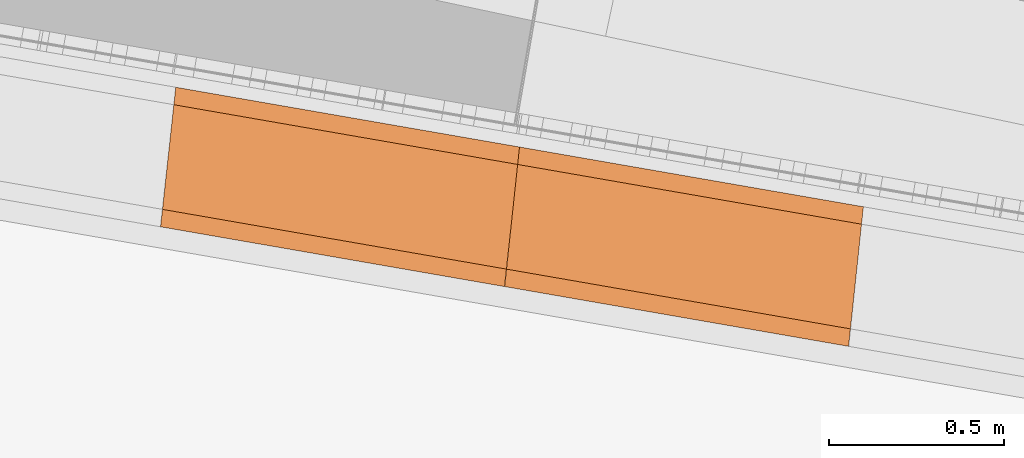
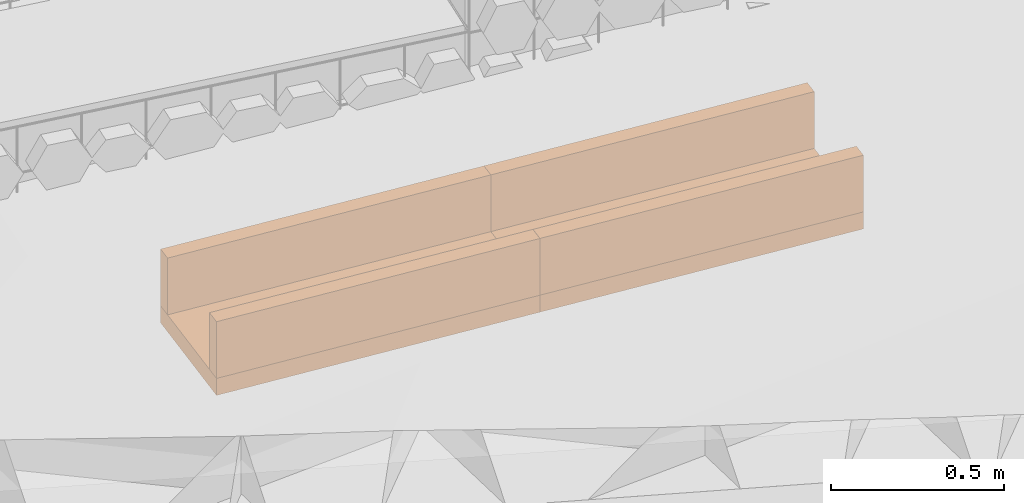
# Not in any storey, part 41 of 45: 6 proxies.
"""IFC4 model written with IfcOpenShell, lengths in metres."""

from ifc_helpers import new_model, si_unit, direction, frame, origin_with_axes, place, context, subcontext, project, spatial, polygons, material, element, save


model = new_model("IFC4")

# Units and contexts
model_context = context("Model", 3, precision=1e-05, world=origin_with_axes(), true_north=direction((0.0, 1.0)))
body_context = subcontext(model_context, "Body", "Model", "MODEL_VIEW")
ifc_project = project(units=[si_unit("VOLUMEUNIT", "CUBIC_METRE"), si_unit("LENGTHUNIT", "METRE"), si_unit("AREAUNIT", "SQUARE_METRE")], contexts=[model_context])

# Site
site_placement = place(None, origin_with_axes())
site = spatial("IfcSite", under=ifc_project, at=site_placement, Name="Lares · Rua das Mercês · artigo 4771")

# Proxies
ifc_material = material(Name="Caleiras · betão", Category="concrete")
proxy_1_placement = place(site_placement, frame((0.0, 0.0, 0.0), z_axis=(0.0, 0.0, 1.0), x_axis=(1.0, -1.03767253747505e-17, 0.0)))
element("IfcBuildingElementProxy", 1, at=proxy_1_placement, inside=site, material=ifc_material, Name="Acesso · canal lateral", ObjectType="Acesso · canal lateral", PredefinedType="USERDEFINED", context=body_context, shape_type="Tessellation", body=[
    polygons([(73.413912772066, 7.33794561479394, 15.4597425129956), (73.4571225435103, 7.73560491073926, 15.4597425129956), (74.4372869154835, 7.56529763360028, 15.5133495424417), (74.3940771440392, 7.16763833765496, 15.5133495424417), (73.413912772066, 7.33794561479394, 15.5197425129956), (73.4571225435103, 7.73560491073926, 15.5197425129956), (74.4372869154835, 7.56529763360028, 15.5733495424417), (74.3940771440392, 7.16763833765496, 15.5733495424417)], [[[4, 3, 2, 1]], [[5, 6, 7, 8]], [[1, 2, 6, 5]], [[2, 3, 7, 6]], [[3, 4, 8, 7]], [[4, 1, 5, 8]]]),
])
proxy_2_placement = place(site_placement, frame((0.0, 0.0, 0.0), z_axis=(0.0, 0.0, 1.0), x_axis=(1.0, -1.03767253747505e-17, 0.0)))
element("IfcBuildingElementProxy", 2, at=proxy_2_placement, inside=site, material=ifc_material, Name="Acesso · canal lateral", ObjectType="Acesso · canal lateral", PredefinedType="USERDEFINED", context=body_context, shape_type="Tessellation", body=[
    polygons([(73.413912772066, 7.33794561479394, 15.5197425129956), (73.4193139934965, 7.3876530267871, 15.5197425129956), (74.3994783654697, 7.21734574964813, 15.5733495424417), (74.3940771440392, 7.16763833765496, 15.5733495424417), (73.413912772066, 7.33794561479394, 15.7197425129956), (73.4193139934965, 7.3876530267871, 15.7197425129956), (74.3994783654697, 7.21734574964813, 15.7733495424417), (74.3940771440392, 7.16763833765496, 15.7733495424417)], [[[4, 3, 2, 1]], [[5, 6, 7, 8]], [[1, 2, 6, 5]], [[2, 3, 7, 6]], [[3, 4, 8, 7]], [[4, 1, 5, 8]]]),
])
proxy_3_placement = place(site_placement, frame((0.0, 0.0, 0.0), z_axis=(0.0, 0.0, 1.0), x_axis=(1.0, -1.03767253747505e-17, 0.0)))
element("IfcBuildingElementProxy", 3, at=proxy_3_placement, inside=site, material=ifc_material, Name="Acesso · canal lateral", ObjectType="Acesso · canal lateral", PredefinedType="USERDEFINED", context=body_context, shape_type="Tessellation", body=[
    polygons([(73.4517213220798, 7.68589749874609, 15.5197425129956), (73.4571225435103, 7.73560491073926, 15.5197425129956), (74.4372869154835, 7.56529763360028, 15.5733495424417), (74.431885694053, 7.51559022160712, 15.5733495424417), (73.4517213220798, 7.68589749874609, 15.7197425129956), (73.4571225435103, 7.73560491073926, 15.7197425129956), (74.4372869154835, 7.56529763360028, 15.7733495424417), (74.431885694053, 7.51559022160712, 15.7733495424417)], [[[4, 3, 2, 1]], [[5, 6, 7, 8]], [[1, 2, 6, 5]], [[2, 3, 7, 6]], [[3, 4, 8, 7]], [[4, 1, 5, 8]]]),
])
proxy_4_placement = place(site_placement, frame((0.0, 0.0, 0.0), z_axis=(0.0, 0.0, 1.0), x_axis=(1.0, -1.03767253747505e-17, 0.0)))
element("IfcBuildingElementProxy", 4, at=proxy_4_placement, inside=site, material=ifc_material, Name="Acesso · canal lateral", ObjectType="Acesso · canal lateral", PredefinedType="USERDEFINED", context=body_context, shape_type="Tessellation", body=[
    polygons([(74.3945170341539, 7.16759103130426, 15.5133495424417), (74.4368470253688, 7.56534493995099, 15.5133495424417), (75.4169922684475, 7.39503843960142, 15.5669565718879), (75.3746622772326, 6.99728453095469, 15.5669565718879), (74.3945170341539, 7.16759103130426, 15.5733495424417), (74.4368470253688, 7.56534493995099, 15.5733495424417), (75.4169922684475, 7.39503843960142, 15.6269565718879), (75.3746622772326, 6.99728453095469, 15.6269565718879)], [[[4, 3, 2, 1]], [[5, 6, 7, 8]], [[1, 2, 6, 5]], [[2, 3, 7, 6]], [[3, 4, 8, 7]], [[4, 1, 5, 8]]]),
])
proxy_5_placement = place(site_placement, frame((0.0, 0.0, 0.0), z_axis=(0.0, 0.0, 1.0), x_axis=(1.0, -1.03767253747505e-17, 0.0)))
element("IfcBuildingElementProxy", 5, at=proxy_5_placement, inside=site, material=ifc_material, Name="Acesso · canal lateral", ObjectType="Acesso · canal lateral", PredefinedType="USERDEFINED", context=body_context, shape_type="Tessellation", body=[
    polygons([(74.3945170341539, 7.16759103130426, 15.5733495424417), (74.3998082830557, 7.2173102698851, 15.5733495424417), (75.3799535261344, 7.04700376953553, 15.6269565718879), (75.3746622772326, 6.99728453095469, 15.6269565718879), (74.3945170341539, 7.16759103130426, 15.7733495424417), (74.3998082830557, 7.2173102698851, 15.7733495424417), (75.3799535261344, 7.04700376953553, 15.8269565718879), (75.3746622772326, 6.99728453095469, 15.8269565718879)], [[[4, 3, 2, 1]], [[5, 6, 7, 8]], [[1, 2, 6, 5]], [[2, 3, 7, 6]], [[3, 4, 8, 7]], [[4, 1, 5, 8]]]),
])
proxy_6_placement = place(site_placement, frame((0.0, 0.0, 0.0), z_axis=(0.0, 0.0, 1.0), x_axis=(1.0, -1.03767253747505e-17, 0.0)))
element("IfcBuildingElementProxy", 6, at=proxy_6_placement, inside=site, material=ifc_material, Name="Acesso · canal lateral", ObjectType="Acesso · canal lateral", PredefinedType="USERDEFINED", context=body_context, shape_type="Tessellation", body=[
    polygons([(74.4315557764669, 7.51562570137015, 15.5733495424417), (74.4368470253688, 7.56534493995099, 15.5733495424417), (75.4169922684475, 7.39503843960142, 15.6269565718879), (75.4117010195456, 7.34531920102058, 15.6269565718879), (74.4315557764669, 7.51562570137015, 15.7733495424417), (74.4368470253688, 7.56534493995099, 15.7733495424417), (75.4169922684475, 7.39503843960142, 15.8269565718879), (75.4117010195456, 7.34531920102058, 15.8269565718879)], [[[4, 3, 2, 1]], [[5, 6, 7, 8]], [[1, 2, 6, 5]], [[2, 3, 7, 6]], [[3, 4, 8, 7]], [[4, 1, 5, 8]]]),
])

save(model, "model.ifc")
